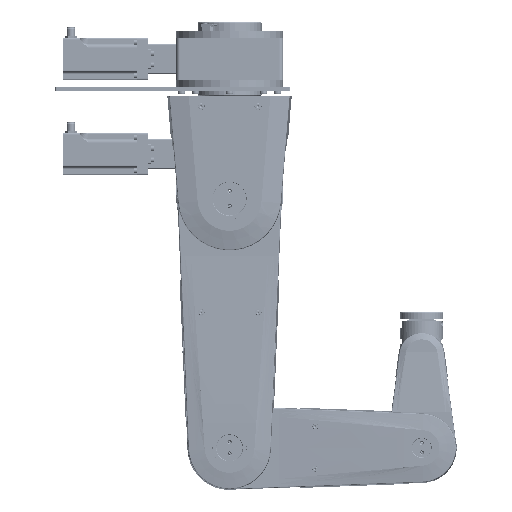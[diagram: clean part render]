
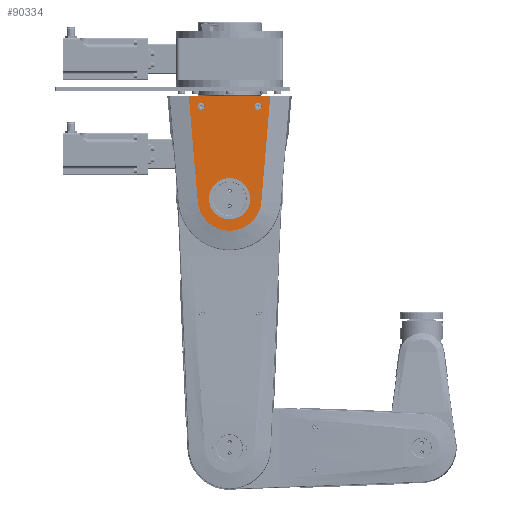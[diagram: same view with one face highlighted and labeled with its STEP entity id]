
A CAD part, front view. The second image highlights one B-rep face of the part: STEP entity #90334.
In plain terms, the highlighted planar face has unit normal (0, -1, 0) as drawn and (0, 1, 0) by its records, which use the part's own axes.
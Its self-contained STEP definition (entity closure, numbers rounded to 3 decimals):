
#8702=FACE_BOUND('',#23859,.T.);
#8703=FACE_BOUND('',#23860,.T.);
#8704=FACE_BOUND('',#23861,.T.);
#13163=CIRCLE('',#101146,44.901);
#13164=CIRCLE('',#101157,29.);
#13165=CIRCLE('',#101158,5.);
#13166=CIRCLE('',#101159,5.);
#13167=CIRCLE('',#101160,5.);
#13168=CIRCLE('',#101161,5.);
#18055=FACE_OUTER_BOUND('',#23858,.T.);
#23858=EDGE_LOOP('',(#80843,#80844,#80845,#80846));
#23859=EDGE_LOOP('',(#80847));
#23860=EDGE_LOOP('',(#80848,#80849));
#23861=EDGE_LOOP('',(#80850,#80851));
#29814=LINE('',#186046,#35683);
#29828=LINE('',#186096,#35697);
#29830=LINE('',#186105,#35699);
#35683=VECTOR('',#125242,10.);
#35697=VECTOR('',#125300,10.);
#35699=VECTOR('',#125312,10.);
#43929=VERTEX_POINT('',#186031);
#43932=VERTEX_POINT('',#186038);
#43947=VERTEX_POINT('',#186092);
#43949=VERTEX_POINT('',#186098);
#43961=VERTEX_POINT('',#186144);
#43962=VERTEX_POINT('',#186146);
#43963=VERTEX_POINT('',#186147);
#43964=VERTEX_POINT('',#186150);
#43965=VERTEX_POINT('',#186151);
#56390=EDGE_CURVE('',#43932,#43929,#29814,.T.);
#56416=EDGE_CURVE('',#43929,#43947,#29828,.T.);
#56419=EDGE_CURVE('',#43947,#43949,#13163,.T.);
#56421=EDGE_CURVE('',#43949,#43932,#29830,.T.);
#56443=EDGE_CURVE('',#43961,#43961,#13164,.T.);
#56444=EDGE_CURVE('',#43962,#43963,#13165,.T.);
#56445=EDGE_CURVE('',#43963,#43962,#13166,.T.);
#56446=EDGE_CURVE('',#43964,#43965,#13167,.T.);
#56447=EDGE_CURVE('',#43965,#43964,#13168,.T.);
#80843=ORIENTED_EDGE('',*,*,#56390,.F.);
#80844=ORIENTED_EDGE('',*,*,#56421,.F.);
#80845=ORIENTED_EDGE('',*,*,#56419,.F.);
#80846=ORIENTED_EDGE('',*,*,#56416,.F.);
#80847=ORIENTED_EDGE('',*,*,#56443,.T.);
#80848=ORIENTED_EDGE('',*,*,#56444,.T.);
#80849=ORIENTED_EDGE('',*,*,#56445,.T.);
#80850=ORIENTED_EDGE('',*,*,#56446,.T.);
#80851=ORIENTED_EDGE('',*,*,#56447,.T.);
#85778=PLANE('',#101156);
#90334=ADVANCED_FACE('',(#18055,#8702,#8703,#8704),#85778,.T.);
#101146=AXIS2_PLACEMENT_3D('',#186102,#125307,#125308);
#101156=AXIS2_PLACEMENT_3D('',#186143,#125348,#125349);
#101157=AXIS2_PLACEMENT_3D('',#186145,#125350,#125351);
#101158=AXIS2_PLACEMENT_3D('',#186148,#125352,#125353);
#101159=AXIS2_PLACEMENT_3D('',#186149,#125354,#125355);
#101160=AXIS2_PLACEMENT_3D('',#186152,#125356,#125357);
#101161=AXIS2_PLACEMENT_3D('',#186153,#125358,#125359);
#125242=DIRECTION('',(1.,0.,0.));
#125300=DIRECTION('',(-0.084,0.,0.996));
#125307=DIRECTION('center_axis',(0.,-1.,0.));
#125308=DIRECTION('ref_axis',(0.,0.,1.));
#125312=DIRECTION('',(-0.084,0.,-0.996));
#125348=DIRECTION('center_axis',(0.,1.,0.));
#125349=DIRECTION('ref_axis',(0.,0.,1.));
#125350=DIRECTION('center_axis',(0.,-1.,0.));
#125351=DIRECTION('ref_axis',(1.,0.,0.));
#125352=DIRECTION('center_axis',(0.,-1.,0.));
#125353=DIRECTION('ref_axis',(-1.,0.,0.));
#125354=DIRECTION('center_axis',(0.,-1.,0.));
#125355=DIRECTION('ref_axis',(-1.,0.,0.));
#125356=DIRECTION('center_axis',(0.,-1.,0.));
#125357=DIRECTION('ref_axis',(-1.,0.,0.));
#125358=DIRECTION('center_axis',(0.,-1.,0.));
#125359=DIRECTION('ref_axis',(-1.,0.,0.));
#186031=CARTESIAN_POINT('',(57.21,0.,-144.));
#186038=CARTESIAN_POINT('',(-57.21,0.,-144.));
#186046=CARTESIAN_POINT('',(-43.75,0.,-144.));
#186092=CARTESIAN_POINT('',(44.742,0.,3.775));
#186096=CARTESIAN_POINT('',(51.632,0.,-77.893));
#186098=CARTESIAN_POINT('',(-44.742,0.,3.775));
#186102=CARTESIAN_POINT('Origin',(0.,0.,0.));
#186105=CARTESIAN_POINT('',(-48.441,0.,-40.067));
#186143=CARTESIAN_POINT('Origin',(0.,0.,-58.872));
#186144=CARTESIAN_POINT('',(-29.,0.,0.));
#186145=CARTESIAN_POINT('Origin',(0.,0.,0.));
#186146=CARTESIAN_POINT('',(-45.,0.,-130.));
#186147=CARTESIAN_POINT('',(-35.,0.,-130.));
#186148=CARTESIAN_POINT('Origin',(-40.,0.,-130.));
#186149=CARTESIAN_POINT('Origin',(-40.,0.,-130.));
#186150=CARTESIAN_POINT('',(35.,0.,-130.));
#186151=CARTESIAN_POINT('',(45.,0.,-130.));
#186152=CARTESIAN_POINT('Origin',(40.,0.,-130.));
#186153=CARTESIAN_POINT('Origin',(40.,0.,-130.));
